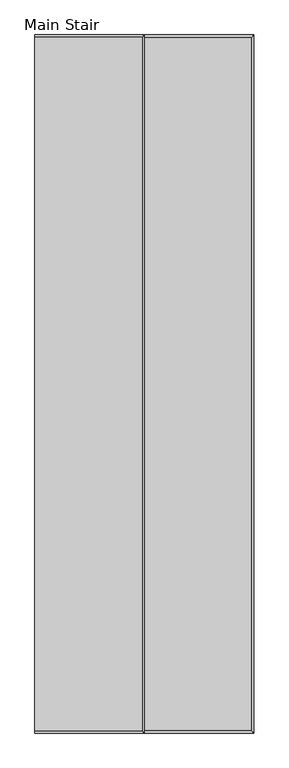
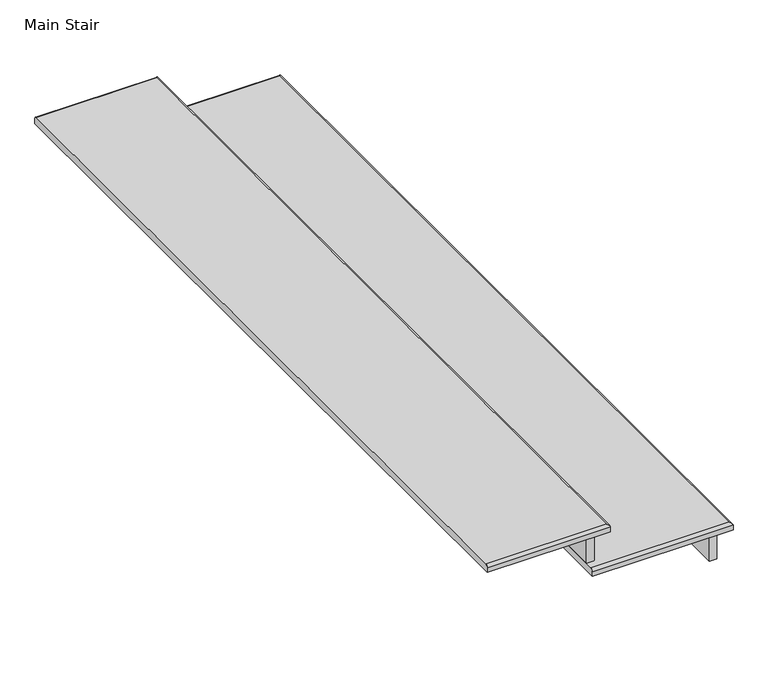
"""IFC4 building model written with IfcOpenShell, lengths in millimetres: stair flight geometry, Main Stair."""

from ifc_helpers import new_model, si_unit, frame, origin, place, context, project, spatial, circle_curve, ellipse_curve, faceted_brep, source, transform, mapped, element, save
from ifc_brep_helpers import plane_surface, cylinder_surface, advanced_brep


def main_stair_c9b1c475(model_context):
    return source(origin(), model_context, "Body", "SolidModel", [
        advanced_brep(
        [(6038.2288706, -2967.2939898, 95.25), (6038.2288706, -2973.6439898, 101.6), (6381.1288706, -2973.6439898, 101.6), (6387.4788706, -2967.2939898, 95.25), (6038.2288706, -2967.2939898, 82.55), (6387.4788706, -2967.2939898, 82.55), (6381.1288706, -4904.0439898, 101.6), (6387.4788706, -4910.3939898, 95.25), (6387.4788706, -4910.3939898, 82.55), (6038.2288706, -4904.0439898, 101.6), (6038.2288706, -4910.3939898, 95.25), (6038.2288706, -4910.3939898, 82.55)],
        [
            (0, 1, circle_curve(frame((6038.2288706, -2973.6439898, 95.25), z_axis=(1.0, 0.0, 0.0), x_axis=(0.0, -1.0, 0.0)), 6.35)),
            (1, 2),
            (2, 3, ellipse_curve(frame((6381.1288706, -2973.6439898, 95.25), z_axis=(-0.7071067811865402, 0.7071067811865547, 0.0), x_axis=(-0.7071067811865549, -0.7071067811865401, 0.0)), 8.9802561, 6.35)),
            (3, 0),
            (4, 0),
            (3, 5),
            (5, 4),
            (2, 6),
            (6, 7, ellipse_curve(frame((6381.1288706, -4904.0439898, 95.25), z_axis=(0.7071067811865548, 0.7071067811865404, 0.0), x_axis=(-0.7071067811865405, 0.7071067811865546, 0.0)), 8.9802561, 6.35)),
            (7, 3),
            (7, 8),
            (8, 5),
            (6, 9),
            (9, 10, circle_curve(frame((6038.2288706, -4904.0439898, 95.25), z_axis=(1.0, 0.0, 0.0), x_axis=(0.0, 1.0, 0.0)), 6.35)),
            (10, 7),
            (10, 11),
            (11, 8),
            (1, 9),
            (11, 4),
        ],
        [
            cylinder_surface(frame((6038.2288706, -2973.6439898, 95.25), z_axis=(-1.0, 0.0, 0.0), x_axis=(0.0, -1.0, 0.0)), 6.35),
            plane_surface(frame((6038.2288706, -2967.2939898, 95.25), z_axis=(0.0, 1.0, 0.0), x_axis=(1.0, 0.0, 0.0))),
            cylinder_surface(frame((6381.1288706, -2992.6939898, 95.25), z_axis=(0.0, 1.0, 0.0), x_axis=(-1.0, 0.0, 0.0)), 6.35),
            plane_surface(frame((6387.4788706, -2967.2939898, 95.25), z_axis=(1.0, 0.0, 0.0), x_axis=(0.0, -1.0, 0.0))),
            cylinder_surface(frame((6362.0788706, -4904.0439898, 95.25), z_axis=(1.0, 0.0, 0.0), x_axis=(0.0, 1.0, 0.0)), 6.35),
            plane_surface(frame((6387.4788706, -4910.3939898, 95.25), z_axis=(0.0, -1.0, 0.0), x_axis=(-1.0, 0.0, 0.0))),
            plane_surface(frame((6387.4788706, -4884.9939898, 101.6), z_axis=(0.0, 0.0, 1.0), x_axis=(1.0, 0.0, 0.0))),
            plane_surface(frame((6387.4788706, -4884.9939898, 82.55), z_axis=(0.0, 0.0, -1.0), x_axis=(-1.0, 0.0, 0.0))),
            plane_surface(frame((6038.2288706, -2992.6939898, 101.6), z_axis=(-1.0, 0.0, 0.0), x_axis=(0.0, 0.0, -1.0))),
        ],
        [
            (0, [[1, 2, 3, 4]]),
            (1, [[5, -4, 6, 7]]),
            (2, [[-3, 8, 9, 10]]),
            (3, [[-6, -10, 11, 12]]),
            (4, [[-9, 13, 14, 15]]),
            (5, [[-11, -15, 16, 17]]),
            (6, [[-13, -8, -2, 18]]),
            (7, [[-7, -12, -17, 19]]),
            (8, [[-18, -1, -5, -19, -16, -14]]),
        ],
    ),
        faceted_brep([(6362.0788706, -2992.6939898, 82.55), (6362.0788706, -2992.6939898, 0.0), (6343.0288706, -2992.6939898, 0.0), (6343.0288706, -2992.6939898, 82.55), (6362.0788706, -4884.9939898, 82.55), (6343.0288706, -4884.9939898, 82.55), (6343.0288706, -4884.9939898, 0.0), (6362.0788706, -4884.9939898, 0.0)], [[[0, 1, 2, 3]], [[4, 5, 6, 7]], [[1, 0, 4, 7]], [[2, 1, 7, 6]], [[3, 2, 6, 5]], [[0, 3, 5, 4]]]),
        faceted_brep([(6057.2788706, -2992.6939898, 184.15), (6057.2788706, -2992.6939898, 101.6), (6038.2288706, -2992.6939898, 101.6), (6038.2288706, -2992.6939898, 184.15), (6057.2788706, -4884.9939898, 184.15), (6038.2288706, -4884.9939898, 184.15), (6038.2288706, -4884.9939898, 101.6), (6057.2788706, -4884.9939898, 101.6)], [[[0, 1, 2, 3]], [[4, 5, 6, 7]], [[1, 0, 4, 7]], [[2, 1, 7, 6]], [[3, 2, 6, 5]], [[0, 3, 5, 4]]]),
        advanced_brep(
        [(5777.8788706, -4904.0439898, 203.2), (6076.3288706, -4904.0439898, 203.2), (6076.3288706, -2973.6439898, 203.2), (5777.8788706, -2973.6439898, 203.2), (5777.8788706, -2967.2939898, 184.15), (6082.6788706, -2967.2939898, 184.15), (6082.6788706, -4910.3939898, 184.15), (5777.8788706, -4910.3939898, 184.15), (5777.8788706, -2967.2939898, 196.85), (5777.8788706, -4910.3939898, 196.85), (6082.6788706, -2967.2939898, 196.85), (6082.6788706, -4910.3939898, 196.85)],
        [
            (0, 1),
            (1, 2),
            (2, 3),
            (3, 0),
            (4, 5),
            (5, 6),
            (6, 7),
            (7, 4),
            (3, 8, circle_curve(frame((5777.8788706, -2973.6439898, 196.85), z_axis=(-1.0, 0.0, 0.0), x_axis=(0.0, -1.0, 0.0)), 6.35)),
            (8, 4),
            (7, 9),
            (9, 0, circle_curve(frame((5777.8788706, -4904.0439898, 196.85), z_axis=(-1.0, 0.0, 0.0), x_axis=(0.0, 1.0, 0.0)), 6.35)),
            (2, 10, ellipse_curve(frame((6076.3288706, -2973.6439898, 196.85), z_axis=(-0.7071067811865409, 0.7071067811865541, 0.0), x_axis=(-0.7071067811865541, -0.7071067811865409, 0.0)), 8.9802561, 6.35)),
            (10, 8),
            (10, 5),
            (1, 11, ellipse_curve(frame((6076.3288706, -4904.0439898, 196.85), z_axis=(0.7071067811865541, 0.7071067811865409, 0.0), x_axis=(-0.7071067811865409, 0.7071067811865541, 0.0)), 8.9802561, 6.35)),
            (11, 10),
            (11, 6),
            (9, 11),
        ],
        [
            plane_surface(frame((6387.4788706, -4884.9939898, 203.2), z_axis=(0.0, 0.0, 1.0), x_axis=(1.0, 0.0, 0.0))),
            plane_surface(frame((6387.4788706, -4884.9939898, 184.15), z_axis=(0.0, 0.0, -1.0), x_axis=(-1.0, 0.0, 0.0))),
            plane_surface(frame((5777.8788706, -2992.6939898, 203.2), z_axis=(-1.0, 0.0, 0.0), x_axis=(0.0, 0.0, -1.0))),
            cylinder_surface(frame((5777.8788706, -2973.6439898, 196.85), z_axis=(-1.0, 0.0, 0.0), x_axis=(0.0, -1.0, 0.0)), 6.35),
            plane_surface(frame((5777.8788706, -2967.2939898, 196.85), z_axis=(0.0, 1.0, 0.0), x_axis=(1.0, 0.0, 0.0))),
            cylinder_surface(frame((6076.3288706, -2992.6939898, 196.85), z_axis=(0.0, 1.0, 0.0), x_axis=(-1.0, 0.0, 0.0)), 6.35),
            plane_surface(frame((6082.6788706, -2967.2939898, 196.85), z_axis=(1.0, 0.0, 0.0), x_axis=(0.0, -1.0, 0.0))),
            cylinder_surface(frame((6057.2788706, -4904.0439898, 196.85), z_axis=(1.0, 0.0, 0.0), x_axis=(0.0, 1.0, 0.0)), 6.35),
            plane_surface(frame((6082.6788706, -4910.3939898, 196.85), z_axis=(0.0, -1.0, 0.0), x_axis=(-1.0, 0.0, 0.0))),
        ],
        [
            (0, [[1, 2, 3, 4]]),
            (1, [[5, 6, 7, 8]]),
            (2, [[-4, 9, 10, -8, 11, 12]]),
            (3, [[-9, -3, 13, 14]]),
            (4, [[-10, -14, 15, -5]]),
            (5, [[-13, -2, 16, 17]]),
            (6, [[-15, -17, 18, -6]]),
            (7, [[-16, -1, -12, 19]]),
            (8, [[-18, -19, -11, -7]]),
        ],
    ),
    ])


if __name__ == "__main__":
    model = new_model("IFC4")
    model_context = context("Model", 3, world=origin())
    ifc_project = project(units=[si_unit("LENGTHUNIT", "METRE", prefix="MILLI")], contexts=[model_context])
    site = spatial("IfcSite", under=ifc_project)
    building = spatial("IfcBuilding", under=site)
    placement = place(None, origin())
    main_stair_shape = main_stair_c9b1c475(model_context)
    element("IfcStairFlight", 1, ObjectType="Main Stair", at=placement, inside=building, context=model_context, shape_type="MappedRepresentation", body=[
        mapped(main_stair_shape, transform((0.0, 0.0, 0.0), x_axis=(1.0, 0.0, 0.0), y_axis=(0.0, 1.0, 0.0), z_axis=(0.0, 0.0, 1.0))),
    ])
    save(model, "model.ifc")
